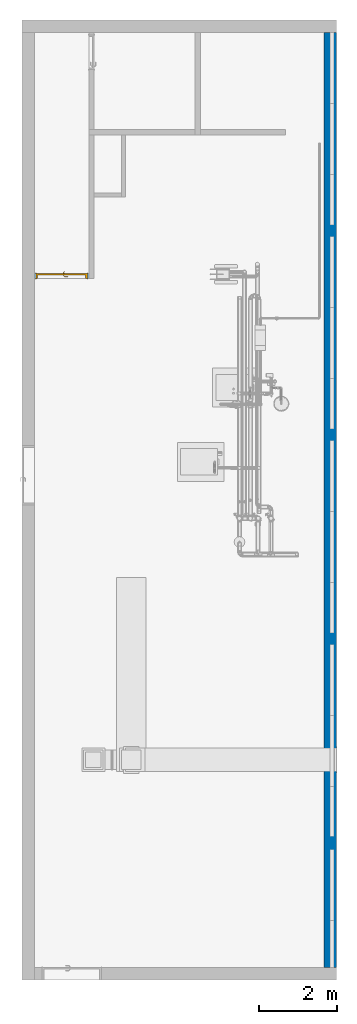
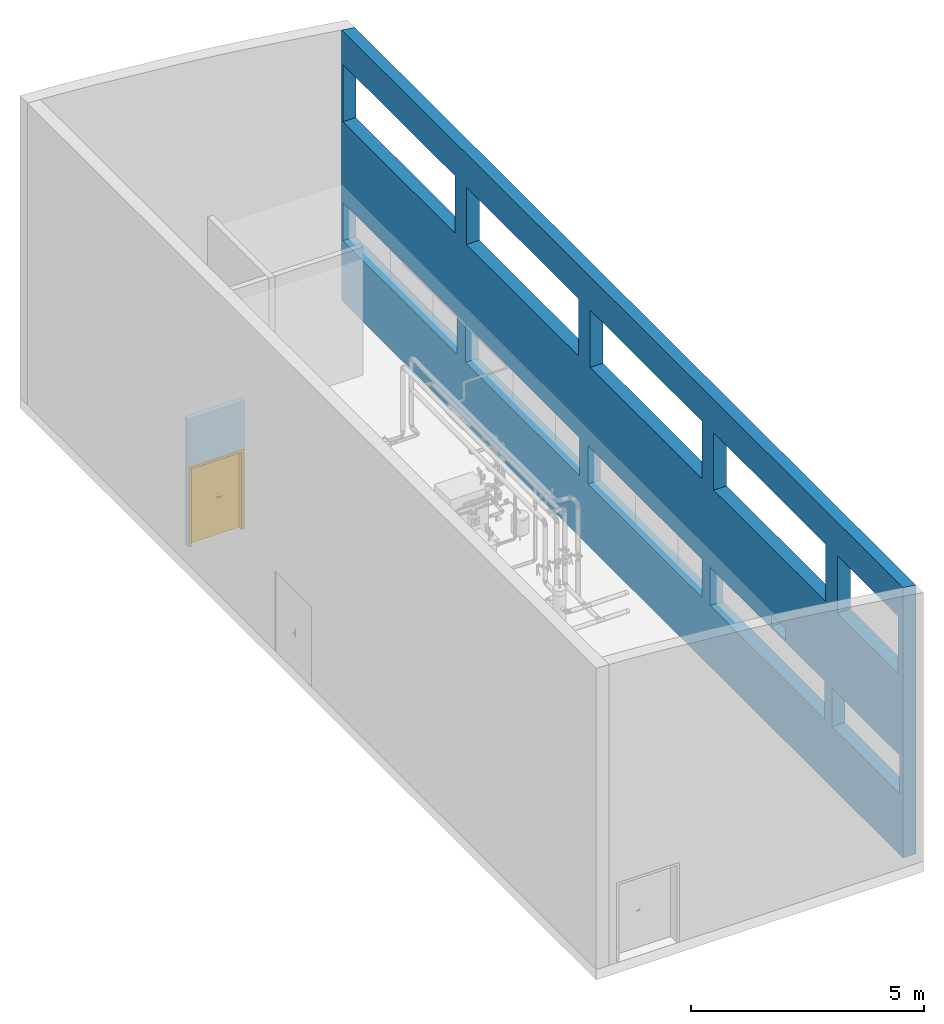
# One storey, part 5 of 43: 1 door, 1 wall, 1 opening, plus 1 element that does not belong to this part.
"""IFC2X3 building model written with IfcOpenShell, lengths in millimetres."""

from ifc_helpers import new_model, entity, si_unit, converted_unit, derived_unit, direction, frame, frame_2d, origin, place, context, subcontext, project, spatial, polyline, rectangle, extrude, clip, bounded_halfspace, faceted_brep, source, transform, mapped, material, material_list, layer, layer_set, layer_usage, type_object, type_shapes, element, fill, save


model = new_model("IFC2X3")

# Units and contexts
model_context = context("Model", 3, precision=0.01, world=origin(), true_north=direction((6.123031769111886e-17, 1.0)))
body_context = subcontext(model_context, "Body", "Model", "MODEL_VIEW")
ifc_project = project(units=[si_unit("LENGTHUNIT", "METRE", prefix="MILLI"), si_unit("AREAUNIT", "SQUARE_METRE"), si_unit("VOLUMEUNIT", "CUBIC_METRE"), converted_unit("PLANEANGLEUNIT", "DEGREE", entity("IfcRatioMeasure", 0.017453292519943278), si_unit("PLANEANGLEUNIT", "RADIAN"), dimensions=[0, 0, 0, 0, 0, 0, 0]), si_unit("MASSUNIT", "GRAM", prefix="KILO"), derived_unit("MASSDENSITYUNIT", [(si_unit("MASSUNIT", "GRAM", prefix="KILO"), 1), (si_unit("LENGTHUNIT", "METRE"), -3)]), derived_unit("MOMENTOFINERTIAUNIT", [(si_unit("LENGTHUNIT", "METRE"), 4)]), si_unit("TIMEUNIT", "SECOND"), si_unit("FREQUENCYUNIT", "HERTZ"), si_unit("THERMODYNAMICTEMPERATUREUNIT", "DEGREE_CELSIUS"), derived_unit("THERMALTRANSMITTANCEUNIT", [(si_unit("MASSUNIT", "GRAM", prefix="KILO"), 1), (si_unit("THERMODYNAMICTEMPERATUREUNIT", "KELVIN"), -1), (si_unit("TIMEUNIT", "SECOND"), -3)]), derived_unit("VOLUMETRICFLOWRATEUNIT", [(si_unit("LENGTHUNIT", "METRE"), 3), (si_unit("TIMEUNIT", "SECOND"), -1)]), derived_unit("MASSFLOWRATEUNIT", [(si_unit("MASSUNIT", "GRAM", prefix="KILO"), 1), (si_unit("TIMEUNIT", "SECOND"), -1)]), derived_unit("ROTATIONALFREQUENCYUNIT", [(si_unit("TIMEUNIT", "SECOND"), -1)]), si_unit("ELECTRICCURRENTUNIT", "AMPERE"), si_unit("ELECTRICVOLTAGEUNIT", "VOLT"), si_unit("POWERUNIT", "WATT"), si_unit("FORCEUNIT", "NEWTON", prefix="KILO"), si_unit("ILLUMINANCEUNIT", "LUX"), si_unit("LUMINOUSFLUXUNIT", "LUMEN"), si_unit("LUMINOUSINTENSITYUNIT", "CANDELA"), derived_unit("USERDEFINED", [(si_unit("MASSUNIT", "GRAM", prefix="KILO"), -1), (si_unit("LENGTHUNIT", "METRE"), -2), (si_unit("TIMEUNIT", "SECOND"), 3), (si_unit("LUMINOUSFLUXUNIT", "LUMEN"), 1)]), derived_unit("SOUNDPOWERUNIT", [(si_unit("MASSUNIT", "GRAM", prefix="KILO"), 1), (si_unit("LENGTHUNIT", "METRE"), 2), (si_unit("TIMEUNIT", "SECOND"), -3)]), derived_unit("SOUNDPRESSUREUNIT", [(si_unit("MASSUNIT", "GRAM", prefix="KILO"), 1), (si_unit("LENGTHUNIT", "METRE"), -1), (si_unit("TIMEUNIT", "SECOND"), -2)]), derived_unit("LINEARVELOCITYUNIT", [(si_unit("LENGTHUNIT", "METRE"), 1), (si_unit("TIMEUNIT", "SECOND"), -1)]), si_unit("PRESSUREUNIT", "PASCAL"), derived_unit("USERDEFINED", [(si_unit("LENGTHUNIT", "METRE"), -2), (si_unit("MASSUNIT", "GRAM", prefix="KILO"), 1), (si_unit("TIMEUNIT", "SECOND"), -2)]), derived_unit("LINEARFORCEUNIT", [(si_unit("MASSUNIT", "GRAM", prefix="KILO"), 1), (si_unit("LENGTHUNIT", "METRE"), 1), (si_unit("TIMEUNIT", "SECOND"), -2), (si_unit("LENGTHUNIT", "METRE"), -1)]), derived_unit("PLANARFORCEUNIT", [(si_unit("MASSUNIT", "GRAM", prefix="KILO"), 1), (si_unit("LENGTHUNIT", "METRE"), 1), (si_unit("TIMEUNIT", "SECOND"), -2), (si_unit("LENGTHUNIT", "METRE"), -2)])], contexts=[model_context])

# Site, building, storey
site_placement = place(None, origin())
site = spatial("IfcSite", under=ifc_project, at=site_placement, Name="Default", CompositionType="ELEMENT")
building_placement = place(site_placement, origin())
building = spatial("IfcBuilding", under=site, at=building_placement, CompositionType="ELEMENT")
storey_placement = place(building_placement, frame((0.0, 0.0, 270.0)))
storey = spatial("IfcBuildingStorey", under=building, at=storey_placement, Name="Niveau 0", CompositionType="ELEMENT", Elevation=270.0)

# Wall
ifc_material_1 = material(Name="Plaque de mur de gypse")
ifc_layer_1 = layer(ifc_material_1, 320.0)
ifc_layer_set_1 = layer_set([ifc_layer_1], Name="Mur de base:Générique - 320 mm")
wall_type_1 = type_object("IfcWallType", Name="Mur de base:Générique - 320 mm", PredefinedType="STANDARD", material=ifc_layer_set_1)
wall_1_placement = place(storey_placement, frame((-160.0, -24390.0, 0.0), z_axis=(0.0, 0.0, 1.0), x_axis=(0.0, 1.0, 0.0)))
element("IfcWall", 1, at=wall_1_placement, inside=storey, type_object=wall_type_1, Name="Mur de base:Générique - 320 mm", ObjectType="Mur de base:Générique - 320 mm", context=body_context, shape_type="Brep", body=[
    faceted_brep([(0.0, -160.0, 0.0), (3038.2209902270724, -160.0, 1600.0), (145.5999818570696, -160.0, 1600.0), (3363.1248312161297, -160.0, 1600.0), (145.5999818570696, -160.0, 2600.0), (8265.0, -160.0, 1600.0), (0.0, -160.0, 7038.839652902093), (8613.124831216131, -160.0, 1600.0), (13515.0, -160.0, 1600.0), (24070.0, -160.0, 0.0), (13863.124831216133, -160.0, 1600.0), (18765.0, -160.0, 1600.0), (19115.0, -160.0, 1600.0), (24016.875168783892, -160.0, 1600.0), (24016.875168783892, -160.0, 2600.0), (24020.0, -160.0, 4710.0), (24070.0, -160.0, 7038.839652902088), (24020.0, -160.0, 6210.0), (19220.0, -160.0, 6210.0), (18720.0, -160.0, 6210.0), (13920.0, -160.0, 6210.0), (13420.0, -160.0, 6210.0), (22565.625000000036, -160.0, 7038.839652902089), (21061.250000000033, -160.0, 7038.839652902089), (19556.87500000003, -160.0, 7038.839652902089), (18052.500000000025, -160.0, 7038.839652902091), (16548.125000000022, -160.0, 7038.839652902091), (15043.750000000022, -160.0, 7038.839652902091), (13539.375000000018, -160.0, 7038.839652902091), (12035.0, -160.0, 7038.839652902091), (10530.625000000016, -160.0, 7038.839652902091), (9026.250000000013, -160.0, 7038.839652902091), (7521.87500000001, -160.0, 7038.839652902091), (6017.500000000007, -160.0, 7038.839652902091), (4513.125000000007, -160.0, 7038.839652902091), (3008.7500000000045, -160.0, 7038.839652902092), (1435.7463575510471, -160.0, 7038.839652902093), (223.07351672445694, -160.0, 4710.0), (223.07351672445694, -160.0, 6210.0), (2813.879516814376, -160.0, 6210.0), (3320.0, -160.0, 6210.0), (8120.0, -160.0, 6210.0), (8620.0, -160.0, 6210.0), (8120.0, -160.0, 4710.0), (8620.0, -160.0, 4710.0), (13920.0, -160.0, 4710.0), (13420.0, -160.0, 4710.0), (13515.0, -160.0, 2600.0), (8613.124831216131, -160.0, 2600.0), (8265.0, -160.0, 2600.0), (13863.124831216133, -160.0, 2600.0), (18765.0, -160.0, 2600.0), (18720.0, -160.0, 4710.0), (19220.0, -160.0, 4710.0), (19115.0, -160.0, 2600.0), (3038.2209902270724, -160.0, 2600.0), (3363.1248312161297, -160.0, 2600.0), (5641.447467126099, -160.0, 2650.0), (5041.447467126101, -160.0, 2650.0), (3320.0, -160.0, 4710.0), (5041.447467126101, -160.0, 2950.0), (2813.879516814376, -160.0, 4710.0), (5641.447467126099, -160.0, 2950.0), (24070.0, 160.0, 0.0), (19115.0, 160.0, 1600.0), (24016.875168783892, 160.0, 1600.0), (18765.0, 160.0, 1600.0), (24070.0, 160.0, 3350.0), (13863.124831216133, 160.0, 1600.0), (13515.0, 160.0, 1600.0), (0.0, 160.0, 0.0), (8613.124831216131, 160.0, 1600.0), (8265.0, 160.0, 1600.0), (3363.1248312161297, 160.0, 1600.0), (3038.2209902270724, 160.0, 1600.0), (145.5999818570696, 160.0, 1600.0), (0.0, 160.0, 3350.0), (145.5999818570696, 160.0, 2600.0), (3038.2209902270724, 160.0, 2600.0), (0.0, 160.0, 3610.0), (2813.879516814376, 160.0, 4710.0), (223.07351672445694, 160.0, 4710.0), (0.0, 160.0, 7083.767972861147), (223.07351672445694, 160.0, 6210.0), (2813.879516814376, 160.0, 6210.0), (3320.0, 160.0, 6210.0), (1435.7463579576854, 160.0, 7083.767972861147), (2871.492715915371, 160.0, 7083.767972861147), (3965.746357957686, 160.0, 7083.7679728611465), (5060.0, 160.0, 7083.7679728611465), (6325.0, 160.0, 7083.767972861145), (7590.0, 160.0, 7083.767972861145), (8855.0, 160.0, 7083.767972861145), (10120.0, 160.0, 7083.767972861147), (8120.0, 160.0, 6210.0), (8620.0, 160.0, 6210.0), (10260.0, 160.0, 7083.767972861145), (13420.0, 160.0, 6210.0), (13920.0, 160.0, 6210.0), (11656.249999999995, 160.0, 7083.767972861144), (13052.499999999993, 160.0, 7083.767972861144), (14448.749999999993, 160.0, 7083.767972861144), (15845.0, 160.0, 7083.767972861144), (17241.249999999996, 160.0, 7083.767972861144), (18637.499999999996, 160.0, 7083.767972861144), (20033.749999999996, 160.0, 7083.767972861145), (21430.0, 160.0, 7083.767972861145), (18720.0, 160.0, 6210.0), (19220.0, 160.0, 6210.0), (21570.0, 160.0, 7083.767972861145), (24020.0, 160.0, 6210.0), (22634.253642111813, 160.0, 7083.767972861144), (24070.0, 160.0, 7083.767972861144), (24020.0, 160.0, 4710.0), (24070.0, 160.0, 3610.0), (19115.0, 160.0, 2600.0), (19220.0, 160.0, 4710.0), (18720.0, 160.0, 4710.0), (13920.0, 160.0, 4710.0), (13420.0, 160.0, 4710.0), (13515.0, 160.0, 2600.0), (13863.124831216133, 160.0, 2600.0), (18765.0, 160.0, 2600.0), (24016.875168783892, 160.0, 2600.0), (8613.124831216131, 160.0, 2600.0), (8265.0, 160.0, 2600.0), (8620.0, 160.0, 4710.0), (8120.0, 160.0, 4710.0), (3320.0, 160.0, 4710.0), (3363.1248312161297, 160.0, 2600.0), (5041.447467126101, 160.0, 2950.0), (5641.447467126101, 160.0, 2950.0), (5641.447467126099, 160.0, 2650.0), (5041.447467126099, 160.0, 2650.0), (24070.0, 96.082969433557, 7074.8010513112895), (24070.0, 32.08232549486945, 7065.818675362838), (24070.0, -31.932350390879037, 7056.830784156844), (24070.0, -95.960087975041, 7047.837682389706), (0.0, -95.92315504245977, 7047.842870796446), (0.0, -31.91694820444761, 7056.832947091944), (0.0, 32.07318988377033, 7065.8173929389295), (0.0, 96.04597672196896, 7074.795860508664), (8222.500001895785, 0.30178015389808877, 7061.35700462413), (3760.9374979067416, 9.866982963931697, 7062.699954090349), (2153.619539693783, 3.0518157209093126, 7061.743116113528), (10190.0, -0.3133466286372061, 7061.270638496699), (11288.551224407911, -38.648930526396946, 7055.887553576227), (16543.12499918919, 17.778280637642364, 7063.810637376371), (18129.588017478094, 10.673993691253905, 7062.813254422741), (12354.374999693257, 14.701156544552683, 7063.378639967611), (22650.384962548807, 2.842217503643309, 7061.713688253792), (19335.624998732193, 16.302196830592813, 7063.603411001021), (6898.159908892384, 5.7638400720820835, 7062.123884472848), (1064.6541439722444, 0.20008389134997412, 7061.3427261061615), (21500.0, -2.6308095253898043, 7060.945255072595), (13559.466398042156, 10.81235489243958, 7062.832679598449), (20400.56848230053, -31.442092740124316, 7056.899631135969), (15320.426426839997, 9.060047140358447, 7062.586663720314), (5647.694101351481, 9.362317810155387, 7062.629101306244)], [[[0, 1, 2]], [[1, 0, 3]], [[0, 2, 4]], [[0, 5, 3]], [[0, 4, 6]], [[7, 5, 0]], [[0, 8, 7]], [[8, 0, 9]], [[10, 8, 9]], [[9, 11, 10]], [[9, 12, 11]], [[12, 9, 13]], [[13, 9, 14]], [[9, 15, 14]], [[15, 9, 16]], [[16, 17, 15]], [[18, 17, 16]], [[18, 16, 19]], [[19, 16, 20]], [[16, 21, 20]], [[21, 16, 22]], [[21, 22, 23]], [[21, 23, 24]], [[21, 24, 25]], [[21, 25, 26]], [[21, 26, 27]], [[21, 27, 28]], [[21, 28, 29]], [[21, 29, 30]], [[21, 30, 31]], [[21, 31, 32]], [[21, 32, 33]], [[21, 33, 34]], [[21, 34, 35]], [[21, 35, 36]], [[21, 36, 6]], [[37, 6, 4]], [[38, 6, 37]], [[6, 38, 39]], [[6, 39, 40]], [[40, 41, 6]], [[6, 41, 42]], [[21, 6, 42]], [[42, 41, 43]], [[44, 42, 43]], [[20, 21, 45]], [[21, 46, 45]], [[45, 46, 47]], [[46, 48, 47]], [[48, 46, 44]], [[44, 43, 49]], [[44, 49, 48]], [[48, 49, 7]], [[50, 47, 8]], [[50, 45, 47]], [[45, 50, 51]], [[45, 51, 52]], [[18, 19, 53]], [[53, 19, 52]], [[52, 51, 54]], [[52, 54, 53]], [[53, 54, 14]], [[14, 15, 53]], [[12, 54, 11]], [[11, 54, 51]], [[50, 8, 10]], [[49, 5, 7]], [[55, 1, 3]], [[55, 3, 56]], [[57, 56, 49]], [[58, 56, 57]], [[55, 56, 59]], [[58, 60, 56]], [[56, 60, 59]], [[40, 61, 59]], [[60, 62, 59]], [[43, 59, 62]], [[59, 61, 55]], [[57, 49, 62]], [[49, 43, 62]], [[61, 4, 55]], [[37, 4, 61]], [[39, 61, 40]], [[63, 64, 65]], [[64, 63, 66]], [[63, 65, 67]], [[68, 66, 63]], [[69, 68, 63]], [[63, 70, 69]], [[71, 69, 70]], [[72, 71, 70]], [[70, 73, 72]], [[70, 74, 73]], [[74, 70, 75]], [[75, 70, 76]], [[77, 75, 76]], [[76, 78, 77]], [[76, 79, 78]], [[78, 79, 80]], [[80, 79, 81]], [[81, 79, 82]], [[82, 83, 81]], [[83, 82, 84]], [[84, 82, 85]], [[85, 82, 86]], [[85, 86, 87]], [[85, 87, 88]], [[85, 88, 89]], [[85, 89, 90]], [[85, 90, 91]], [[85, 91, 92]], [[85, 92, 93]], [[85, 93, 94]], [[94, 93, 95]], [[93, 96, 95]], [[95, 96, 97]], [[96, 98, 97]], [[98, 96, 99]], [[98, 99, 100]], [[98, 100, 101]], [[98, 101, 102]], [[98, 102, 103]], [[98, 103, 104]], [[98, 104, 105]], [[98, 105, 106]], [[98, 106, 107]], [[108, 107, 106]], [[108, 106, 109]], [[109, 110, 108]], [[110, 109, 111]], [[110, 111, 112]], [[110, 112, 113]], [[113, 112, 114]], [[114, 67, 115]], [[116, 114, 115]], [[113, 114, 116]], [[108, 116, 107]], [[117, 116, 115]], [[117, 107, 116]], [[98, 118, 97]], [[118, 119, 97]], [[118, 120, 119]], [[121, 120, 118]], [[118, 122, 121]], [[118, 117, 122]], [[115, 122, 117]], [[66, 122, 115]], [[123, 115, 67]], [[64, 66, 115]], [[121, 68, 69]], [[121, 69, 120]], [[124, 119, 120]], [[71, 125, 124]], [[124, 125, 126]], [[124, 126, 119]], [[126, 127, 95]], [[95, 127, 94]], [[85, 128, 80]], [[80, 84, 85]], [[129, 78, 128]], [[129, 128, 130]], [[131, 128, 127]], [[130, 128, 131]], [[128, 78, 80]], [[131, 125, 132]], [[127, 125, 131]], [[130, 133, 129]], [[133, 132, 129]], [[129, 132, 125]], [[129, 73, 78]], [[78, 73, 74]], [[71, 72, 125]], [[125, 127, 126]], [[67, 65, 123]], [[9, 0, 70, 63]], [[67, 114, 112, 134, 135, 136, 137, 16, 9, 63]], [[79, 76, 70, 0, 6, 138, 139, 140, 141, 82]], [[54, 115, 123, 14]], [[50, 121, 122, 51]], [[48, 124, 120, 47]], [[56, 129, 125, 49]], [[4, 77, 78, 55]], [[13, 65, 64, 12]], [[11, 66, 68, 10]], [[8, 69, 71, 7]], [[5, 72, 73, 3]], [[74, 75, 2, 1]], [[12, 64, 115, 54]], [[13, 14, 123, 65]], [[10, 68, 121, 50]], [[66, 11, 51, 122]], [[7, 71, 124, 48]], [[69, 8, 47, 120]], [[3, 73, 129, 56]], [[5, 49, 125, 72]], [[75, 77, 4, 2]], [[1, 55, 78, 74]], [[18, 108, 110, 17]], [[20, 98, 107, 19]], [[42, 95, 97, 21]], [[40, 85, 94, 41]], [[38, 83, 84, 39]], [[113, 116, 53, 15]], [[117, 118, 45, 52]], [[119, 126, 44, 46]], [[127, 128, 59, 43]], [[80, 81, 37, 61]], [[116, 108, 18, 53]], [[15, 17, 110, 113]], [[118, 98, 20, 45]], [[52, 19, 107, 117]], [[44, 126, 95, 42]], [[119, 46, 21, 97]], [[59, 128, 85, 40]], [[43, 41, 94, 127]], [[37, 81, 83, 38]], [[61, 39, 84, 80]], [[57, 62, 131, 132]], [[58, 57, 132, 133]], [[60, 58, 133, 130]], [[62, 60, 130, 131]], [[32, 31, 142]], [[143, 87, 144]], [[144, 87, 86]], [[96, 145, 146]], [[34, 143, 35]], [[103, 147, 148]], [[149, 146, 29]], [[150, 111, 109]], [[151, 105, 104]], [[152, 32, 142]], [[25, 24, 151]], [[138, 6, 36]], [[153, 141, 140]], [[145, 96, 93, 92]], [[144, 153, 36]], [[154, 23, 22]], [[139, 153, 140]], [[27, 155, 28]], [[150, 137, 136]], [[111, 150, 134]], [[142, 145, 92]], [[134, 112, 111]], [[151, 156, 105]], [[154, 109, 106]], [[150, 136, 135]], [[151, 148, 25]], [[155, 27, 157]], [[158, 34, 33]], [[86, 82, 141]], [[33, 152, 158]], [[31, 30, 145]], [[138, 36, 153]], [[153, 86, 141]], [[150, 109, 154]], [[16, 137, 22]], [[154, 22, 150]], [[106, 105, 156]], [[154, 156, 23]], [[146, 30, 29]], [[100, 99, 149]], [[152, 142, 91]], [[92, 91, 142]], [[145, 142, 31]], [[152, 91, 90]], [[33, 32, 152]], [[36, 35, 144]], [[158, 90, 89]], [[143, 144, 35]], [[153, 139, 138]], [[86, 153, 144]], [[158, 143, 34]], [[143, 89, 88, 87]], [[151, 104, 148]], [[24, 23, 156]], [[147, 103, 102]], [[147, 25, 148]], [[148, 104, 103]], [[147, 157, 26]], [[156, 154, 106]], [[24, 156, 151]], [[99, 96, 146]], [[157, 27, 26]], [[149, 29, 28]], [[28, 155, 149]], [[149, 155, 100]], [[101, 100, 155]], [[147, 102, 157]], [[147, 26, 25]], [[102, 101, 157]], [[155, 157, 101]], [[99, 146, 149]], [[30, 146, 145]], [[90, 158, 152]], [[158, 89, 143]], [[150, 22, 137]], [[134, 150, 135]]]),
])

# Wall, opening, door
ifc_material_2 = material(Name="Peinture")
ifc_layer_2 = layer(ifc_material_2, 140.0)
ifc_layer_set_2 = layer_set([ifc_layer_2], Name="Mur de base:Générique - 140 mm")
ifc_layer_usage = layer_usage(ifc_layer_set_2, "AXIS2", "POSITIVE", -69.99999999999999)
wall_type_2 = type_object("IfcWallType", Name="Mur de base:Générique - 140 mm", PredefinedType="STANDARD", material=ifc_layer_set_2)
wall_2_placement = place(storey_placement, frame((-6380.0, -6590.0, 0.0), z_axis=(0.0, 0.0, 1.0), x_axis=(-1.0, 0.0, 0.0)))
wall_2 = element("IfcWallStandardCase", 2, at=wall_2_placement, inside=storey, type_object=wall_type_2, material=ifc_layer_usage, Name="Mur de base:Générique - 140 mm", ObjectType="Mur de base:Générique - 140 mm", context=body_context, shape_type="Clipping", body=[
    clip(extrude(rectangle(XDim=1399.999999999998, YDim=139.99999999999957, at=frame_2d((699.999999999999, 5.400124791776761e-13), x_axis=(1.0, 0.0))), origin(), (0.0, 0.0, 1.0), 3350.0), bounded_halfspace(frame((0.0, -70.0, 3350.0), z_axis=(0.0, 0.0, -1.0), x_axis=(-1.0, 0.0, 0.0)), True, frame((0.0, -70.0, 3350.0)), polyline([(0.0, 0.0), (426720.0, 0.0), (426720.0, 42672.0), (0.0, 42672.0), (0.0, 0.0)]))),
])
opening_placement = place(wall_2_placement, frame((1365.0, 70.0, 0.0)))
opening = element("IfcOpeningElement", 3, at=opening_placement, cuts=wall_2, Name="Int. Double:PP (1.26m x 2.04m):1", ObjectType="Opening", context=body_context, shape_type="SweptSolid", body=[
    extrude(rectangle(XDim=2075.00000000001, YDim=1330.0000000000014, at=frame_2d((1037.500000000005, 665.0000000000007), x_axis=(1.0, 0.0))), frame((0.0, 0.0, 0.0), z_axis=(0.0, -1.0, 0.0), x_axis=(0.0, 0.0, 1.0)), (0.0, 0.0, 1.0), 139.99999999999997),
])
ifc_material_3 = material(Name="Bois - Panneau de porte")
ifc_material_4 = material(Name="Finition Peinture - Blanc satiné")
ifc_material_5 = material(Name="Bois - Cadre de porte")
ifc_material_list_1 = material_list([ifc_material_3, ifc_material_4, ifc_material_4, ifc_material_4, ifc_material_4, ifc_material_3, ifc_material_5, ifc_material_5, ifc_material_5])
ifc_material_list_2 = material_list([ifc_material_3, ifc_material_4, ifc_material_4, ifc_material_4, ifc_material_4, ifc_material_3, ifc_material_5, ifc_material_5, ifc_material_5])
door_style = type_object("IfcDoorStyle", Name="Int. Double:PP (1.26m x 2.04m)", ConstructionType="NOTDEFINED", OperationType="NOTDEFINED", ParameterTakesPrecedence=False, Sizeable=False, material=ifc_material_list_2)
shared_shape = source(origin(), body_context, "Body", "Brep", [
    faceted_brep([(735.0, 40.0, 2040.0), (1365.0, 40.0, 2040.0), (1365.0, 40.0, 0.0), (735.0, 40.0, 0.0), (735.0, 0.0, 2040.0), (735.0, 0.0, 0.0), (1365.0, 0.0, 0.0), (1365.0, 0.0, 2040.0)], [[[0, 1, 2, 3]], [[4, 5, 6, 7]], [[1, 0, 4, 7]], [[2, 1, 7, 6]], [[3, 2, 6, 5]], [[0, 3, 5, 4]]]),
    faceted_brep([(695.0, -5.0, 870.0), (695.0, -5.0, 1080.0), (685.3527618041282, -5.0, 1083.996016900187), (675.0, -5.0, 1085.3589838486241), (664.6472381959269, -5.0, 1083.9960169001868), (655.0, -5.0, 1080.0), (655.0, -5.0, 870.0), (664.6472381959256, -5.0, 866.003983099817), (675.0, -5.0, 864.6410161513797), (685.3527618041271, -5.0, 866.003983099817), (695.0, 0.0, 1080.0), (695.0, 0.0, 870.0), (685.3527618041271, 0.0, 866.003983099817), (675.0, 0.0, 864.6410161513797), (664.6472381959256, 0.0, 866.003983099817), (655.0, 0.0, 870.0), (655.0, 0.0, 1080.0), (664.6472381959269, 0.0, 1083.9960169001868), (675.0, 0.0, 1085.3589838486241), (685.3527618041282, 0.0, 1083.996016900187)], [[[0, 1, 2, 3, 4, 5, 6, 7, 8, 9]], [[10, 11, 12, 13, 14, 15, 16, 17, 18, 19]], [[9, 12, 11, 0]], [[8, 13, 12, 9]], [[7, 14, 13, 8]], [[7, 6, 15, 14]], [[15, 6, 5, 16]], [[4, 17, 16, 5]], [[3, 18, 17, 4]], [[2, 19, 18, 3]], [[2, 1, 10, 19]], [[11, 10, 1, 0]]]),
    faceted_brep([(695.0, 40.0, 870.0), (695.0, 40.0, 1080.0), (685.3527618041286, 40.0, 1083.9960169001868), (675.0, 40.0, 1085.3589838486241), (664.6472381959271, 40.0, 1083.996016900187), (655.0, 40.0, 1080.0), (655.0, 40.0, 870.0), (664.6472381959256, 40.0, 866.003983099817), (675.0, 40.0, 864.6410161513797), (685.3527618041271, 40.0, 866.0039830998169), (675.0, 45.0, 1085.3589838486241), (685.3527618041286, 45.0, 1083.9960169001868), (695.0, 45.0, 1080.0), (695.0, 45.0, 870.0), (685.3527618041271, 45.0, 866.0039830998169), (675.0, 45.0, 864.6410161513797), (664.6472381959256, 45.0, 866.003983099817), (655.0, 45.0, 870.0), (655.0, 45.0, 1080.0), (664.6472381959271, 45.0, 1083.996016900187)], [[[0, 1, 2, 3, 4, 5, 6, 7, 8, 9]], [[10, 11, 12, 13, 14, 15, 16, 17, 18, 19]], [[4, 19, 18, 5]], [[3, 10, 19, 4]], [[2, 11, 10, 3]], [[2, 1, 12, 11]], [[13, 12, 1, 0]], [[9, 14, 13, 0]], [[8, 15, 14, 9]], [[7, 16, 15, 8]], [[7, 6, 17, 16]], [[17, 6, 5, 18]]]),
    faceted_brep([(672.9747013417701, -5.0, 1007.7804408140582), (677.0252986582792, -5.0, 1007.7804408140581), (681.0, -5.0, 1007.0), (681.0, -5.0, 993.0), (677.0252986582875, -5.0, 992.21955918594), (672.9747013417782, -5.0, 992.2195591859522), (669.0, -5.0, 993.0), (669.0, -5.0, 1007.0), (677.0252986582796, -31.00457549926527, 1007.7804408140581), (681.0, -32.65095070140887, 1007.0), (672.9747013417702, -29.326763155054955, 1007.7804408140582), (659.2986024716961, -43.00286202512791, 1007.7804408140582), (660.9764148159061, -47.053459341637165, 1007.7804408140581), (669.0, -27.68038795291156, 1007.0), (669.0, -27.680387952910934, 993.0), (672.9747013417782, -29.326763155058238, 992.2195591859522), (677.0252986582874, -31.00457549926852, 992.21955918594), (660.9764148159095, -47.05345934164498, 992.21955918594), (659.2986024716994, -43.0028620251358, 992.2195591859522), (681.0, -32.650950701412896, 993.0), (662.6227900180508, -51.02816068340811, 1007.0), (657.6522272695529, -39.02816068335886, 1007.0), (657.6522272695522, -39.02816068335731, 993.0), (662.6227900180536, -51.0281606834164, 993.0), (574.9813593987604, -51.028160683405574, 1007.0), (574.9813593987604, -47.053459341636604, 1007.7804408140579), (574.9813593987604, -43.00286202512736, 1007.780440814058), (574.9813593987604, -39.02816068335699, 1007.0), (574.9813593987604, -39.02816068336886, 993.0), (574.9813593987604, -43.00286202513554, 992.219559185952), (574.9813593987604, -47.053459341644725, 992.2195591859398), (574.9813593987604, -51.028160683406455, 993.0), (617.1399809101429, -45.02816067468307, 1007.878686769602), (622.6923027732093, -51.02816068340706, 1007.0), (616.3167933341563, -39.02816068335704, 1007.0), (616.3167933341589, -39.028160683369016, 993.0), (617.1399811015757, -45.02816075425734, 992.1213132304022), (622.6923104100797, -51.02816068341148, 993.0)], [[[0, 1, 2, 3, 4, 5, 6, 7]], [[2, 1, 8, 9]], [[1, 0, 10, 11, 12, 8]], [[0, 7, 13, 10]], [[14, 13, 7, 6]], [[5, 15, 14, 6]], [[5, 4, 16, 17, 18, 15]], [[3, 19, 16, 4]], [[9, 19, 3, 2]], [[9, 8, 12, 20]], [[10, 13, 21, 11]], [[22, 21, 13, 14]], [[14, 15, 18, 22]], [[16, 19, 23, 17]], [[20, 23, 19, 9]], [[24, 25, 26, 27, 28, 29, 30, 31]], [[32, 25, 33]], [[33, 25, 24]], [[33, 20, 12]], [[11, 34, 32]], [[34, 11, 21]], [[27, 26, 34]], [[32, 26, 25]], [[32, 34, 26]], [[32, 33, 12]], [[11, 32, 12]], [[21, 22, 35, 28, 27, 34]], [[36, 29, 35]], [[30, 36, 37]], [[18, 35, 22]], [[29, 28, 35]], [[30, 37, 31]], [[37, 17, 23]], [[36, 17, 37]], [[36, 18, 17]], [[36, 35, 18]], [[29, 36, 30]], [[23, 20, 33, 24, 31, 37]]]),
    faceted_brep([(672.9747013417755, 45.0, 992.2195591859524), (677.0252986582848, 45.0, 992.2195591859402), (681.0, 45.0, 993.0), (681.0, 45.0, 1007.0), (677.0252986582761, 45.0, 1007.7804408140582), (672.9747013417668, 45.0, 1007.7804408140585), (669.0, 45.0, 1007.0), (669.0, 45.0, 993.0), (669.0, 67.48520450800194, 1007.0), (669.0, 67.48520450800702, 993.0), (672.9747013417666, 69.13157971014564, 1007.7804408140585), (677.0252986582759, 70.80939205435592, 1007.7804408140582), (660.8389061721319, 86.99578454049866, 1007.7804408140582), (659.1610938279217, 82.94518722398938, 1007.7804408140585), (681.0, 72.4557672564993, 1007.0), (681.0, 72.45576725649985, 993.0), (677.0252986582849, 70.80939205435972, 992.2195591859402), (672.9747013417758, 69.13157971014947, 992.2195591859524), (659.1610938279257, 82.94518722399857, 992.2195591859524), (660.8389061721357, 86.99578454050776, 992.2195591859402), (657.5147186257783, 78.97048588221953, 1007.0), (657.5147186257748, 78.97048588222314, 993.0), (662.4852813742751, 90.97048588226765, 1007.0), (662.4852813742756, 90.97048588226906, 993.0), (574.9542163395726, 82.94518722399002, 1007.7804408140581), (574.9542163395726, 86.99578454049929, 1007.780440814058), (574.9542163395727, 90.97048588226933, 1007.0), (574.9542163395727, 90.97048588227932, 993.0), (574.9542163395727, 86.99578454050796, 992.2195591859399), (574.9542163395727, 82.94518722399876, 992.2195591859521), (574.9542163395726, 78.97048588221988, 993.0), (574.9542163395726, 78.97048588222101, 1007.0), (616.2344674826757, 78.97048588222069, 1007.0), (616.2344794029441, 78.97048588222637, 993.0), (617.0576551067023, 84.9704858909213, 1007.8786867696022), (622.5547942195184, 90.97048588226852, 1007.0), (622.5547956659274, 90.9704858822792, 993.0), (617.0576548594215, 84.9704858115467, 992.1213132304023)], [[[0, 1, 2, 3, 4, 5, 6, 7]], [[8, 9, 7, 6]], [[5, 10, 8, 6]], [[5, 4, 11, 12, 13, 10]], [[3, 14, 11, 4]], [[14, 3, 2, 15]], [[2, 1, 16, 15]], [[1, 0, 17, 18, 19, 16]], [[0, 7, 9, 17]], [[20, 21, 9, 8]], [[8, 10, 13, 20]], [[14, 22, 12, 11]], [[23, 22, 14, 15]], [[15, 16, 19, 23]], [[17, 9, 21, 18]], [[24, 25, 26, 27, 28, 29, 30, 31]], [[21, 20, 32, 31, 30, 33]], [[34, 24, 32]], [[25, 34, 35]], [[13, 32, 20]], [[24, 31, 32]], [[25, 35, 26]], [[35, 12, 22]], [[34, 12, 35]], [[34, 13, 12]], [[34, 32, 13]], [[24, 34, 25]], [[22, 23, 36, 27, 26, 35]], [[37, 28, 36]], [[36, 28, 27]], [[36, 23, 19]], [[18, 33, 37]], [[33, 18, 21]], [[30, 29, 33]], [[37, 29, 28]], [[37, 33, 29]], [[37, 36, 19]], [[18, 37, 19]]]),
    faceted_brep([(735.0, 40.0, 2040.0), (735.0, 40.0, 0.0), (105.0, 40.0, 0.0), (105.0, 40.0, 2040.0), (735.0, 0.0, 2040.0), (105.0, 0.0, 2040.0), (105.0, 0.0, 0.0), (735.0, 0.0, 0.0)], [[[0, 1, 2, 3]], [[4, 5, 6, 7]], [[3, 5, 4, 0]], [[2, 6, 5, 3]], [[1, 7, 6, 2]], [[0, 4, 7, 1]]]),
    faceted_brep([(1400.0, 0.0, 0.0), (1365.0, 0.0, 0.0), (1365.0, 40.0, 0.0), (1350.0, 40.0, 0.0), (1350.0, 140.0, 0.0), (1400.0, 140.0, 0.0), (1400.0, 140.0, 2075.0), (1400.0, 0.0, 2075.0), (1350.0, 140.0, 2025.0), (120.0, 140.0, 2025.0), (120.0, 140.0, 0.0), (70.0, 140.0, 0.0), (70.0, 140.0, 2075.0), (1350.0, 40.0, 2025.0), (1365.0, 40.0, 2040.0), (105.0, 40.0, 2040.0), (105.0, 40.0, 0.0), (120.0, 40.0, 0.0), (120.0, 40.0, 2025.0), (1365.0, 0.0, 2040.0), (70.0, 0.0, 2075.0), (70.0, 0.0, 0.0), (105.0, 0.0, 0.0), (105.0, 0.0, 2040.0)], [[[0, 1, 2, 3, 4, 5]], [[5, 6, 7, 0]], [[4, 8, 9, 10, 11, 12, 6, 5]], [[3, 13, 8, 4]], [[2, 14, 15, 16, 17, 18, 13, 3]], [[1, 19, 14, 2]], [[0, 7, 20, 21, 22, 23, 19, 1]], [[12, 11, 21, 20]], [[21, 11, 10, 17, 16, 22]], [[18, 17, 10, 9]], [[23, 22, 16, 15]], [[6, 12, 20, 7]], [[13, 18, 9, 8]], [[19, 23, 15, 14]]]),
    faceted_brep([(1385.0, 140.0, 0.0), (1385.0, 145.0, 0.0), (1415.0, 145.0, 0.0), (1415.0, 140.0, 0.0), (1415.0, 140.0, 2090.0), (55.0, 140.0, 2090.0), (55.0, 140.0, 0.0), (85.0, 140.0, 0.0), (85.0, 140.0, 2060.0), (1385.0, 140.0, 2060.0), (1415.0, 145.0, 2090.0), (1385.0, 145.0, 2060.0), (85.0, 145.0, 2060.0), (85.0, 145.0, 0.0), (55.0, 145.0, 0.0), (55.0, 145.0, 2090.0)], [[[0, 1, 2, 3]], [[3, 4, 5, 6, 7, 8, 9, 0]], [[2, 10, 4, 3]], [[1, 11, 12, 13, 14, 15, 10, 2]], [[0, 9, 11, 1]], [[8, 7, 13, 12]], [[7, 6, 14, 13]], [[15, 14, 6, 5]], [[10, 15, 5, 4]], [[9, 8, 12, 11]]]),
    faceted_brep([(1415.0, -5.0, 0.0), (1415.0, -5.0, 2090.0), (55.0, -5.0, 2090.0), (55.0, -5.0, 0.0), (85.0, -5.0, 0.0), (85.0, -5.0, 2060.0), (1385.0, -5.0, 2060.0), (1385.0, -5.0, 0.0), (1415.0, 0.0, 0.0), (1415.0, 0.0, 2090.0), (1385.0, 0.0, 0.0), (1385.0, 0.0, 2060.0), (85.0, 0.0, 2060.0), (85.0, 0.0, 0.0), (55.0, 0.0, 0.0), (55.0, 0.0, 2090.0)], [[[0, 1, 2, 3, 4, 5, 6, 7]], [[8, 9, 1, 0]], [[10, 11, 12, 13, 14, 15, 9, 8]], [[7, 6, 11, 10]], [[5, 4, 13, 12]], [[15, 14, 3, 2]], [[9, 15, 2, 1]], [[6, 5, 12, 11]], [[4, 3, 14, 13]], [[7, 10, 8, 0]]]),
])
type_shapes(door_style, [shared_shape])
door_placement = place(opening_placement, frame((-1400.0, -140.0, 0.0)))
door = element("IfcDoor", 4, at=door_placement, inside=storey, type_object=door_style, material=ifc_material_list_1, Name="Int. Double:PP (1.26m x 2.04m)", ObjectType="Int. Double:PP (1.26m x 2.04m)", OverallHeight=2075.00000000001, OverallWidth=1330.0000000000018, context=body_context, shape_type="MappedRepresentation", body=[
    mapped(shared_shape, transform((0.0, 0.0, 0.0), scale=1.0)),
])
fill(opening, door)

save(model, "model.ifc")
